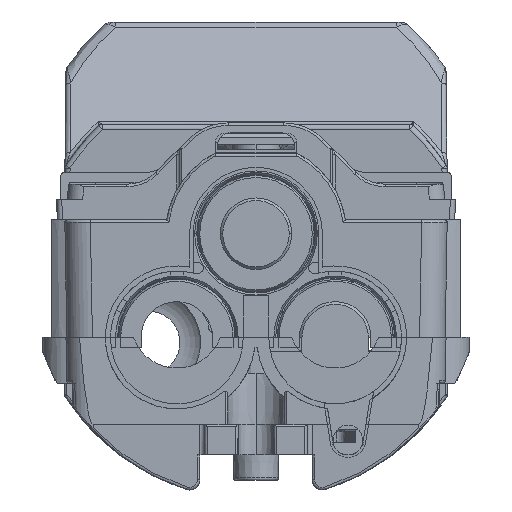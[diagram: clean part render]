
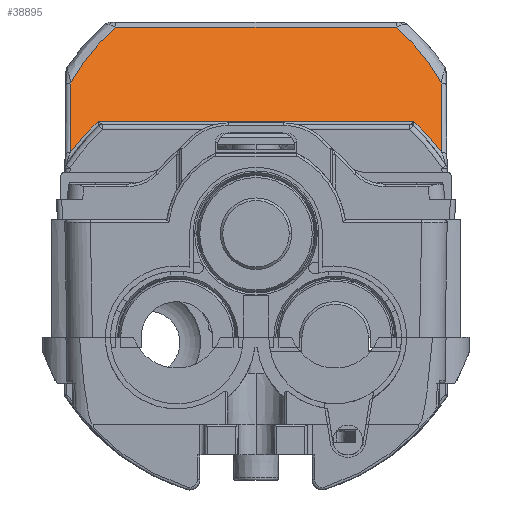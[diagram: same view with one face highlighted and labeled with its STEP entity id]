
A CAD part, left-side view. The second image highlights one B-rep face of the part: STEP entity #38895.
In plain terms, the highlighted planar face has unit normal (-0.866, 0, 0.5).
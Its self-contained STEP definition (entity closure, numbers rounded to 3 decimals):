
#347 = ORIENTED_EDGE ( 'NONE', *, *, #21852, .T. ) ;
#1798 = EDGE_CURVE ( 'NONE', #29337, #21597, #25747, .T. ) ;
#2646 = DIRECTION ( 'NONE',  ( 0.5, 0.008, 0.866 ) ) ;
#2800 = PLANE ( 'NONE',  #55225 ) ;
#4217 = VECTOR ( 'NONE', #40312, 1000. ) ;
#4721 = CARTESIAN_POINT ( 'NONE',  ( -247.83, -27.457, 94.75 ) ) ;
#4863 =( BOUNDED_CURVE ( )  B_SPLINE_CURVE ( 3, ( #44952, #9455, #5121, #36403 ),
 .UNSPECIFIED., .F., .F. ) 
 B_SPLINE_CURVE_WITH_KNOTS ( ( 4, 4 ),
 ( 3.888, 4.068 ),
 .UNSPECIFIED. ) 
 CURVE ( )  GEOMETRIC_REPRESENTATION_ITEM ( )  RATIONAL_B_SPLINE_CURVE ( ( 1., 0.997, 0.997, 1. ) ) 
 REPRESENTATION_ITEM ( '' )  );
#5121 = CARTESIAN_POINT ( 'NONE',  ( -260.757, -34.74, 72.361 ) ) ;
#7338 = DIRECTION ( 'NONE',  ( -0.866, 0., 0.5 ) ) ;
#9455 = CARTESIAN_POINT ( 'NONE',  ( -259.584, -32.907, 74.392 ) ) ;
#10070 =( BOUNDED_CURVE ( )  B_SPLINE_CURVE ( 3, ( #46165, #50477, #24109, #55191 ),
 .UNSPECIFIED., .F., .F. ) 
 B_SPLINE_CURVE_WITH_KNOTS ( ( 4, 4 ),
 ( 0.723, 1.063 ),
 .UNSPECIFIED. ) 
 CURVE ( )  GEOMETRIC_REPRESENTATION_ITEM ( )  RATIONAL_B_SPLINE_CURVE ( ( 1., 0.99, 0.99, 1. ) ) 
 REPRESENTATION_ITEM ( '' )  );
#10209 = CARTESIAN_POINT ( 'NONE',  ( -247.83, -27.457, 94.75 ) ) ;
#11168 = EDGE_CURVE ( 'NONE', #21597, #58097, #31911, .T. ) ;
#13291 = VERTEX_POINT ( 'NONE', #20950 ) ;
#13568 = CARTESIAN_POINT ( 'NONE',  ( -251.762, -33.965, 87.941 ) ) ;
#13773 = VECTOR ( 'NONE', #18381, 1000. ) ;
#14997 = CARTESIAN_POINT ( 'NONE',  ( -262.02, 36.383, 70.173 ) ) ;
#16045 =( BOUNDED_CURVE ( )  B_SPLINE_CURVE ( 3, ( #49249, #13568, #31535, #4721 ),
 .UNSPECIFIED., .F., .F. ) 
 B_SPLINE_CURVE_WITH_KNOTS ( ( 4, 4 ),
 ( 5.22, 5.56 ),
 .UNSPECIFIED. ) 
 CURVE ( )  GEOMETRIC_REPRESENTATION_ITEM ( )  RATIONAL_B_SPLINE_CURVE ( ( 1., 0.99, 0.99, 1. ) ) 
 REPRESENTATION_ITEM ( '' )  );
#17713 = EDGE_CURVE ( 'NONE', #13291, #29337, #10070, .T. ) ;
#18238 = VERTEX_POINT ( 'NONE', #56504 ) ;
#18381 = DIRECTION ( 'NONE',  ( -0.5, 0.008, -0.866 ) ) ;
#18972 = ORIENTED_EDGE ( 'NONE', *, *, #11168, .T. ) ;
#20950 = CARTESIAN_POINT ( 'NONE',  ( -247.83, 27.457, 94.75 ) ) ;
#21005 = EDGE_LOOP ( 'NONE', ( #47319, #32723, #35231, #37410, #18972, #29971, #49074, #347 ) ) ;
#21597 = VERTEX_POINT ( 'NONE', #27465 ) ;
#21852 = EDGE_CURVE ( 'NONE', #18238, #29801, #23124, .T. ) ;
#23124 = LINE ( 'NONE', #25129, #42498 ) ;
#24109 = CARTESIAN_POINT ( 'NONE',  ( -251.762, 33.965, 87.941 ) ) ;
#25129 = CARTESIAN_POINT ( 'NONE',  ( -258.518, -36.33, 76.238 ) ) ;
#25710 = DIRECTION ( 'NONE',  ( 0., 1., 0. ) ) ;
#25747 = LINE ( 'NONE', #47365, #13773 ) ;
#27465 = CARTESIAN_POINT ( 'NONE',  ( -262.02, 36.383, 70.173 ) ) ;
#29337 = VERTEX_POINT ( 'NONE', #37983 ) ;
#29801 = VERTEX_POINT ( 'NONE', #51157 ) ;
#29971 = ORIENTED_EDGE ( 'NONE', *, *, #41079, .T. ) ;
#31535 = CARTESIAN_POINT ( 'NONE',  ( -249.636, -31.001, 91.623 ) ) ;
#31911 =( BOUNDED_CURVE ( )  B_SPLINE_CURVE ( 3, ( #14997, #41704, #37244, #46187 ),
 .UNSPECIFIED., .F., .T. ) 
 B_SPLINE_CURVE_WITH_KNOTS ( ( 4, 4 ),
 ( 2.215, 2.395 ),
 .UNSPECIFIED. ) 
 CURVE ( )  GEOMETRIC_REPRESENTATION_ITEM ( )  RATIONAL_B_SPLINE_CURVE ( ( 1., 0.997, 0.997, 1. ) ) 
 REPRESENTATION_ITEM ( '' )  );
#32522 = LINE ( 'NONE', #38864, #54873 ) ;
#32723 = ORIENTED_EDGE ( 'NONE', *, *, #46425, .T. ) ;
#34095 = CARTESIAN_POINT ( 'NONE',  ( -258.8, 38.25, 75.75 ) ) ;
#35231 = ORIENTED_EDGE ( 'NONE', *, *, #17713, .T. ) ;
#35818 = CARTESIAN_POINT ( 'NONE',  ( -258.511, 38.25, 76.25 ) ) ;
#36403 = CARTESIAN_POINT ( 'NONE',  ( -262.02, -36.383, 70.173 ) ) ;
#37244 = CARTESIAN_POINT ( 'NONE',  ( -259.584, 32.907, 74.392 ) ) ;
#37410 = ORIENTED_EDGE ( 'NONE', *, *, #1798, .T. ) ;
#37983 = CARTESIAN_POINT ( 'NONE',  ( -254.146, 36.264, 83.81 ) ) ;
#38397 = VERTEX_POINT ( 'NONE', #47396 ) ;
#38592 = DIRECTION ( 'NONE',  ( 0.5, 0., 0.866 ) ) ;
#38864 = CARTESIAN_POINT ( 'NONE',  ( -247.83, 26.28, 94.75 ) ) ;
#38895 = ADVANCED_FACE ( 'NONE', ( #45643 ), #2800, .T. ) ;
#39897 = LINE ( 'NONE', #35818, #4217 ) ;
#40312 = DIRECTION ( 'NONE',  ( 0., -1., 0. ) ) ;
#41079 = EDGE_CURVE ( 'NONE', #58097, #38397, #39897, .T. ) ;
#41481 = EDGE_CURVE ( 'NONE', #38397, #18238, #4863, .T. ) ;
#41704 = CARTESIAN_POINT ( 'NONE',  ( -260.757, 34.74, 72.361 ) ) ;
#42498 = VECTOR ( 'NONE', #2646, 1000. ) ;
#42858 = EDGE_CURVE ( 'NONE', #29801, #52157, #16045, .T. ) ;
#43459 = CARTESIAN_POINT ( 'NONE',  ( -258.511, 30.898, 76.25 ) ) ;
#44952 = CARTESIAN_POINT ( 'NONE',  ( -258.511, -30.898, 76.25 ) ) ;
#45643 = FACE_OUTER_BOUND ( 'NONE', #21005, .T. ) ;
#46165 = CARTESIAN_POINT ( 'NONE',  ( -247.83, 27.457, 94.75 ) ) ;
#46187 = CARTESIAN_POINT ( 'NONE',  ( -258.511, 30.898, 76.25 ) ) ;
#46425 = EDGE_CURVE ( 'NONE', #52157, #13291, #32522, .T. ) ;
#47319 = ORIENTED_EDGE ( 'NONE', *, *, #42858, .T. ) ;
#47365 = CARTESIAN_POINT ( 'NONE',  ( -258.807, 36.334, 75.737 ) ) ;
#47396 = CARTESIAN_POINT ( 'NONE',  ( -258.511, -30.898, 76.25 ) ) ;
#49074 = ORIENTED_EDGE ( 'NONE', *, *, #41481, .T. ) ;
#49249 = CARTESIAN_POINT ( 'NONE',  ( -254.146, -36.264, 83.81 ) ) ;
#50477 = CARTESIAN_POINT ( 'NONE',  ( -249.636, 31.001, 91.623 ) ) ;
#51157 = CARTESIAN_POINT ( 'NONE',  ( -254.146, -36.264, 83.81 ) ) ;
#52157 = VERTEX_POINT ( 'NONE', #10209 ) ;
#54873 = VECTOR ( 'NONE', #25710, 1000. ) ;
#55191 = CARTESIAN_POINT ( 'NONE',  ( -254.146, 36.264, 83.81 ) ) ;
#55225 = AXIS2_PLACEMENT_3D ( 'NONE', #34095, #7338, #38592 ) ;
#56504 = CARTESIAN_POINT ( 'NONE',  ( -262.02, -36.383, 70.173 ) ) ;
#58097 = VERTEX_POINT ( 'NONE', #43459 ) ;
